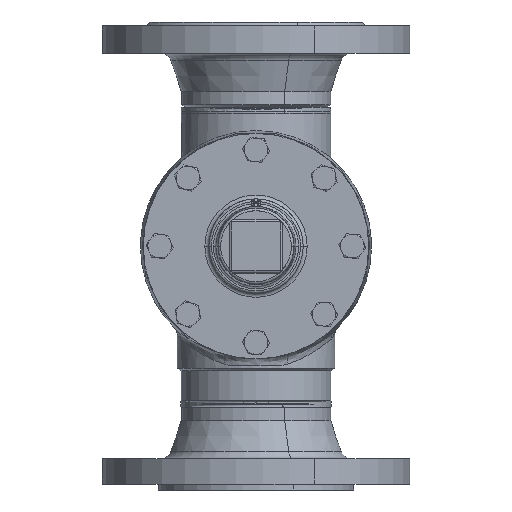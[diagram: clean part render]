
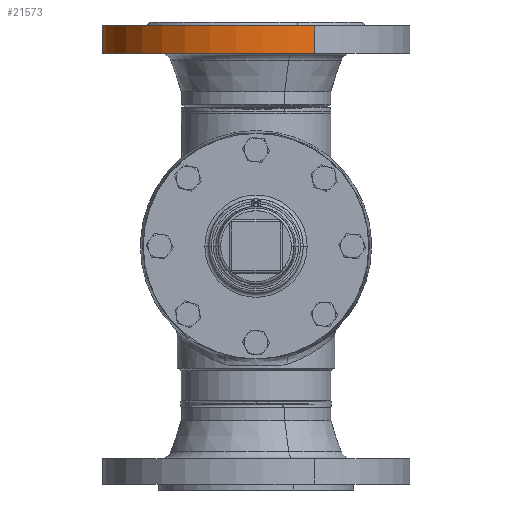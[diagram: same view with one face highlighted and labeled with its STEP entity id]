
A CAD part, front view. The second image highlights one B-rep face of the part: STEP entity #21573.
In plain terms, the highlighted cylindrical face has radius 117.5 mm (diameter 235 mm), a partial arc.
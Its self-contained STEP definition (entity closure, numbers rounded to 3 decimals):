
#16754 = EDGE_CURVE ( 'NONE', #18488, #16316, #1967, .T. ) ;
#33184 = EDGE_CURVE ( 'NONE', #32614, #16316, #20936, .T. ) ;
#17474 = ORIENTED_EDGE ( 'NONE', *, *, #16754, .T. ) ;
#1460 = CARTESIAN_POINT ( 'NONE',  ( -117.5, 24., 0. ) ) ;
#1967 = LINE ( 'NONE', #1968, #1969 ) ;
#1968 = CARTESIAN_POINT ( 'NONE',  ( 117.5, 75., 0. ) ) ;
#1969 = VECTOR ( 'NONE', #1970, 1000. ) ;
#1970 = DIRECTION ( 'NONE',  ( 0., 1., 0. ) ) ;
#18488 = VERTEX_POINT ( 'NONE', #5872 ) ;
#18741 = FACE_OUTER_BOUND ( 'NONE', #21107, .T. ) ;
#18742 = CYLINDRICAL_SURFACE ( 'NONE', #18761, 117.5 ) ;
#18761 = AXIS2_PLACEMENT_3D ( 'NONE', #18762, #18763, #18764 ) ;
#18762 = CARTESIAN_POINT ( 'NONE',  ( 0., 75., 0. ) ) ;
#18763 = DIRECTION ( 'NONE',  ( 0., 1., 0. ) ) ;
#18764 = DIRECTION ( 'NONE',  ( -1., 0., 0. ) ) ;
#18929 = VERTEX_POINT ( 'NONE', #6664 ) ;
#19359 = EDGE_CURVE ( 'NONE', #18929, #18488, #7206, .T. ) ;
#20096 = ORIENTED_EDGE ( 'NONE', *, *, #19359, .T. ) ;
#20936 = CIRCLE ( 'NONE', #20937, 117.5 ) ;
#20937 = AXIS2_PLACEMENT_3D ( 'NONE', #20938, #20939, #20940 ) ;
#20938 = CARTESIAN_POINT ( 'NONE',  ( 0., 24., 0. ) ) ;
#20939 = DIRECTION ( 'NONE',  ( 0., 1., 0. ) ) ;
#20940 = DIRECTION ( 'NONE',  ( -1., 0., 0. ) ) ;
#37398 = LINE ( 'NONE', #37399, #37400 ) ;
#37399 = CARTESIAN_POINT ( 'NONE',  ( -117.5, 75., 0. ) ) ;
#37400 = VECTOR ( 'NONE', #37401, 1000. ) ;
#37401 = DIRECTION ( 'NONE',  ( 0., 1., 0. ) ) ;
#21107 = EDGE_LOOP ( 'NONE', ( #20096, #17474, #15297, #31598 ) ) ;
#21573 = ADVANCED_FACE ( 'NONE', ( #18741 ), #18742, .T. ) ;
#5872 = CARTESIAN_POINT ( 'NONE',  ( 117.5, 3., 0. ) ) ;
#6664 = CARTESIAN_POINT ( 'NONE',  ( -117.5, 3., 0. ) ) ;
#7206 = CIRCLE ( 'NONE', #7207, 117.5 ) ;
#7207 = AXIS2_PLACEMENT_3D ( 'NONE', #7208, #7209, #7210 ) ;
#7208 = CARTESIAN_POINT ( 'NONE',  ( 0., 3., 0. ) ) ;
#7209 = DIRECTION ( 'NONE',  ( 0., 1., 0. ) ) ;
#7210 = DIRECTION ( 'NONE',  ( -1., 0., 0. ) ) ;
#30098 = CARTESIAN_POINT ( 'NONE',  ( 117.5, 24., 0. ) ) ;
#30881 = EDGE_CURVE ( 'NONE', #18929, #32614, #37398, .T. ) ;
#31598 = ORIENTED_EDGE ( 'NONE', *, *, #30881, .F. ) ;
#15297 = ORIENTED_EDGE ( 'NONE', *, *, #33184, .F. ) ;
#32614 = VERTEX_POINT ( 'NONE', #1460 ) ;
#16316 = VERTEX_POINT ( 'NONE', #30098 ) ;
